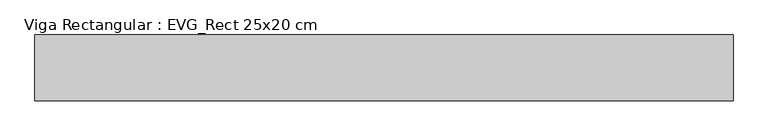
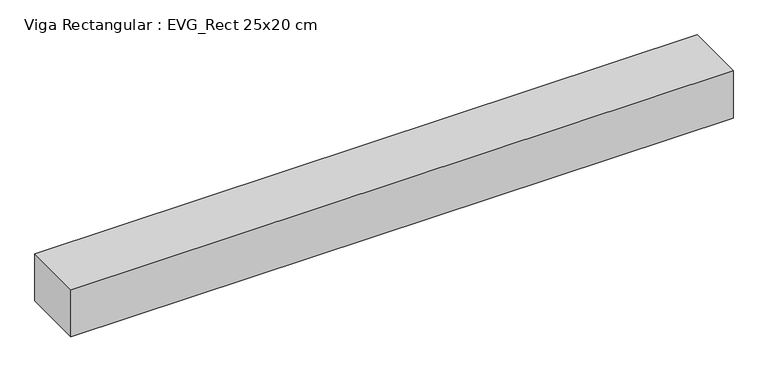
"""IFC4 building model written with IfcOpenShell, lengths in millimetres: beam geometry, Viga Rectangular : EVG_Rect 25x20 cm."""

from ifc_helpers import new_model, si_unit, frame, origin, place, context, project, spatial, polyline, outline, extrude, source, transform, mapped, element, save


def viga_rectangular_evg_rect_25x20_cm_9c3e1b78(model_context):
    return source(origin(), model_context, "Body", "SweptSolid", [
        extrude(outline(polyline([(1325.0, 125.0), (1325.0, -125.0), (-1325.0, -125.0), (-1325.0, 125.0), (1325.0, 125.0)])), frame((0.0, 0.0, -200.0), z_axis=(0.0, 0.0, 1.0), x_axis=(1.0, 0.0, 0.0)), (0.0, 0.0, 1.0), 200.0),
    ])


if __name__ == "__main__":
    model = new_model("IFC4")
    model_context = context("Model", 3, world=origin())
    ifc_project = project(units=[si_unit("LENGTHUNIT", "METRE", prefix="MILLI")], contexts=[model_context])
    site = spatial("IfcSite", under=ifc_project)
    building = spatial("IfcBuilding", under=site)
    placement = place(None, origin())
    viga_rectangular_evg_rect_25x20_cm_shape = viga_rectangular_evg_rect_25x20_cm_9c3e1b78(model_context)
    element("IfcBeam", 1, ObjectType="Viga Rectangular : EVG_Rect 25x20 cm", at=placement, inside=building, context=model_context, shape_type="MappedRepresentation", body=[
        mapped(viga_rectangular_evg_rect_25x20_cm_shape, transform((0.0, 0.0, 0.0), x_axis=(1.0, 0.0, 0.0), y_axis=(0.0, 1.0, 0.0), z_axis=(0.0, 0.0, 1.0))),
    ])
    save(model, "model.ifc")
